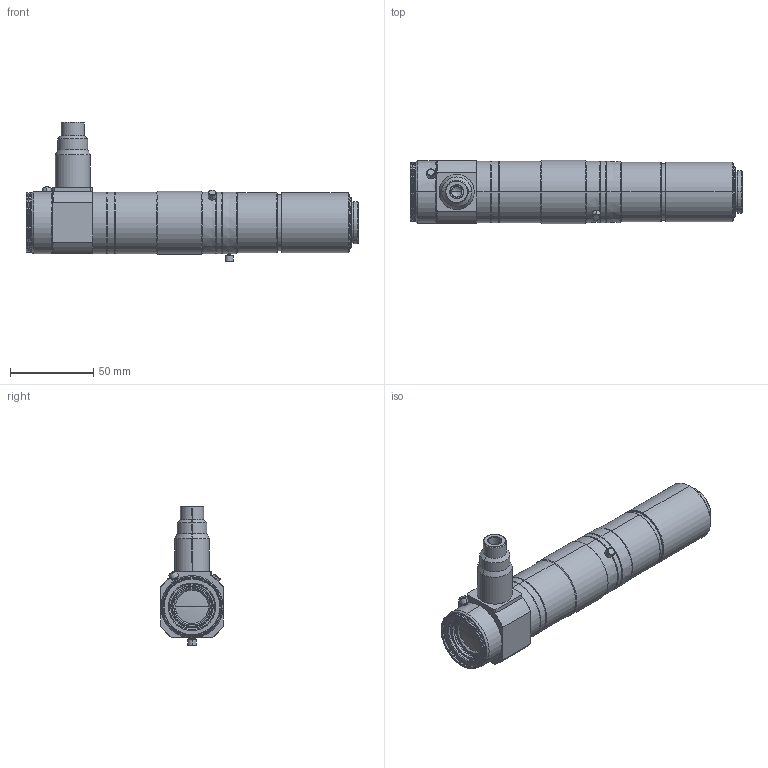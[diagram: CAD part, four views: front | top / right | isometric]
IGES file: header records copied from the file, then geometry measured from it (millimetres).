
Start section: SolidWorks IGES file using analytic representation for surfaces
Global section: file name: \\192.168.1.203\Development\04 ズームレンズ\04 6x（VSZ-0745 VSZ-0530 series)\VSZ-0745&CO\3D\VSZ-0745CO.IGS; native system: SolidWorks 2012; preprocessor: SolidWorks 2012; author: Tsuji_vst; date: 130206.190747; units: millimetre
Bounding box: 199.85 x 38 x 84.1 mm (x, y, z)
Surface area: 38801.6 mm2 (no closed solid volume)
Topology: 0 solids, 0 shells, 281 faces, 4788 edges, 4784 vertices
Faces by surface type: revolution 230, bspline 51
